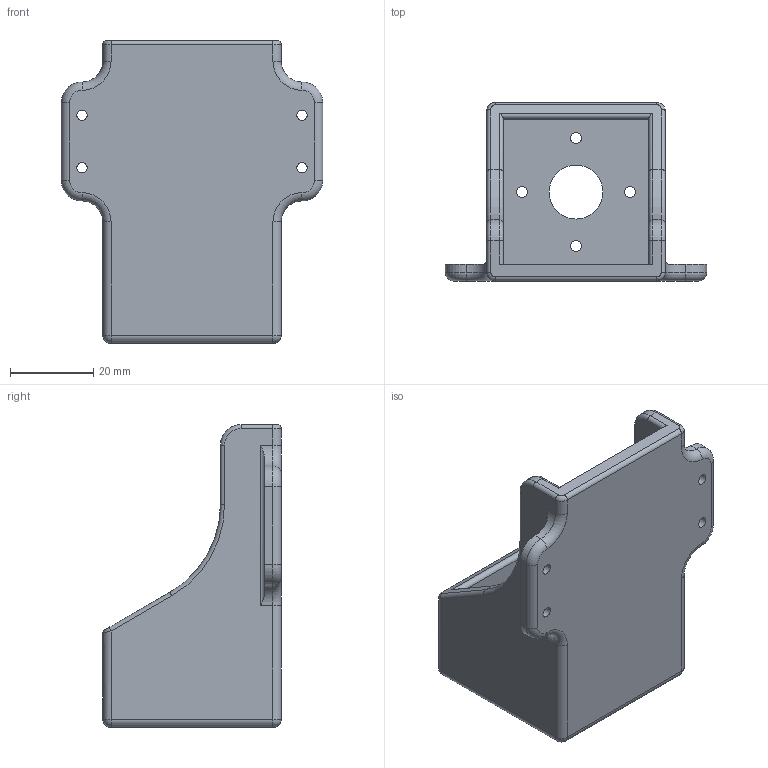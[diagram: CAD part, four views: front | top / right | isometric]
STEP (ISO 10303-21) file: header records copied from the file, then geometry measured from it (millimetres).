
FILE_DESCRIPTION(/* description */ (''),/* implementation_level */ '2;1');
FILE_NAME(/* name */ 'Printer Extruder Knob Z.step',/* time_stamp */ '2026-09-01T19:58:57+01:00',/* author */ (''),/* organization */ (''),/* preprocessor_version */ 'ST-DEVELOPER v20.1',/* originating_system */ 'Autodesk Translation Framework v15.8.0.0',/* authorisation */ '');
FILE_SCHEMA (('AUTOMOTIVE_DESIGN { 1 0 10303 214 3 1 1 }'));
Length unit declared in the file: millimetre
Products named in the file (1): 2026-09-01-19-58-57-153
Bounding box: 63 x 43 x 73 mm (x, y, z)
Volume: 35580.2 mm3; surface area: 18907.3 mm2
Topology: 1 solids, 1 shells, 100 faces, 238 edges, 140 vertices
Faces by surface type: cylinder 50, plane 18, torus 16, cone 8, bspline 4, sphere 4
Full cylindrical faces by diameter (mm): 2.5 x4, 2.7 x4, 13 x1
Entity records: 3013 total; most frequent: CARTESIAN_POINT 563, DIRECTION 556, ORIENTED_EDGE 476, EDGE_CURVE 238, AXIS2_PLACEMENT_3D 225, VERTEX_POINT 140, CIRCLE 122, EDGE_LOOP 118
